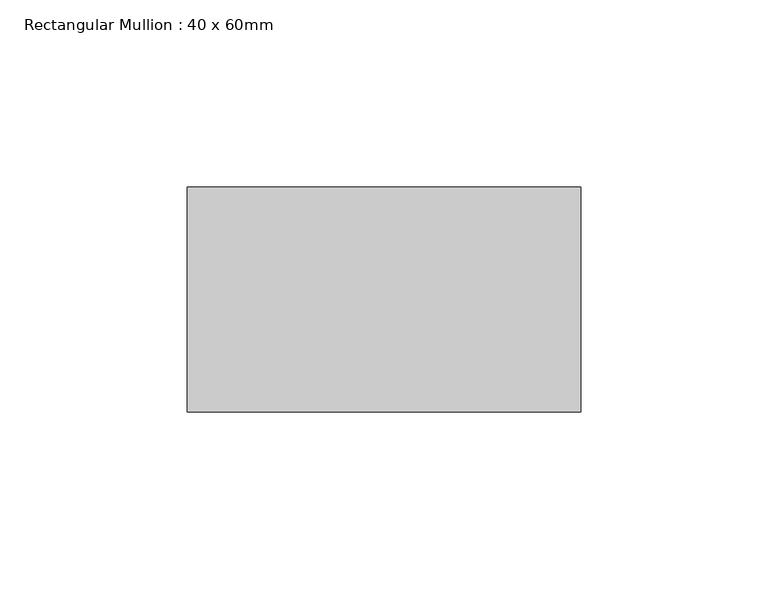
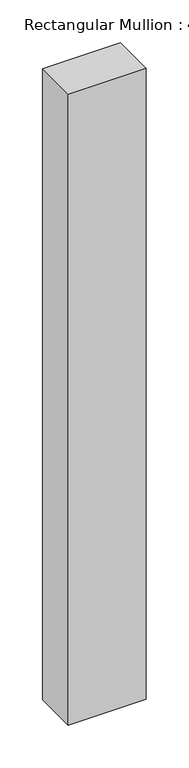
"""IFC4 building model written with IfcOpenShell, lengths in millimetres: member geometry, Rectangular Mullion : 40 x 60mm."""

from ifc_helpers import new_model, si_unit, frame, origin, place, context, project, spatial, polyline, outline, extrude, source, transform, mapped, element, save


def rectangular_mullion_40_x_60mm_c94a6b26(model_context):
    return source(origin(), model_context, "Body", "SweptSolid", [
        extrude(outline(polyline([(80.0, -10.0), (80.0, -70.0), (-25.0, -70.0), (-25.0, -10.0), (80.0, -10.0)])), frame((0.0, 0.0, -900.0), z_axis=(0.0, 0.0, 1.0), x_axis=(1.0, 0.0, 0.0)), (0.0, 0.0, 1.0), 900.0),
    ])


if __name__ == "__main__":
    model = new_model("IFC4")
    model_context = context("Model", 3, world=origin())
    ifc_project = project(units=[si_unit("LENGTHUNIT", "METRE", prefix="MILLI")], contexts=[model_context])
    site = spatial("IfcSite", under=ifc_project)
    building = spatial("IfcBuilding", under=site)
    placement = place(None, origin())
    rectangular_mullion_40_x_60mm_shape = rectangular_mullion_40_x_60mm_c94a6b26(model_context)
    element("IfcMember", 1, ObjectType="Rectangular Mullion : 40 x 60mm", at=placement, inside=building, context=model_context, shape_type="MappedRepresentation", body=[
        mapped(rectangular_mullion_40_x_60mm_shape, transform((0.0, 0.0, 0.0), x_axis=(1.0, 0.0, 0.0), y_axis=(0.0, 1.0, 0.0), z_axis=(0.0, 0.0, 1.0))),
    ])
    save(model, "model.ifc")
